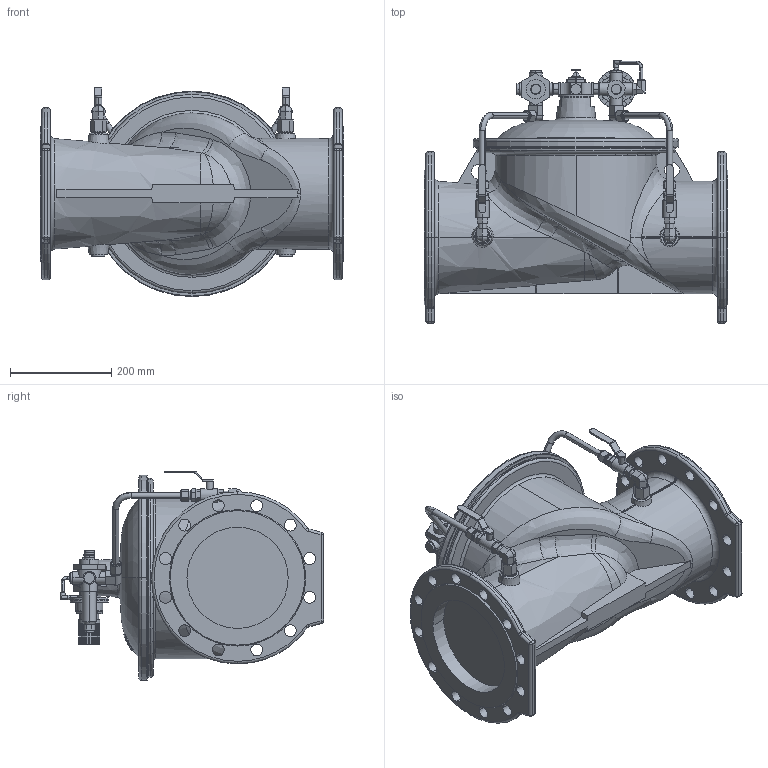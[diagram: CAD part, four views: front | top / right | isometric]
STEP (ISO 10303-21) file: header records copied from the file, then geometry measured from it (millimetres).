
FILE_DESCRIPTION (( 'STEP AP203' ), '1' );
FILE_NAME ('O_859_00_DN200_1XXXX00_REV01.step', '2020-10-15T07:47:38', ( '' ), ( '' ), 'SwSTEP 2.0', 'SolidWorks 2019', '' );
FILE_SCHEMA (( 'CONFIG_CONTROL_DESIGN' ));
Products named in the file (1): O_859_00_DN200_1XXXX00_REV01
Bounding box: 600 x 520 x 413.39 mm (x, y, z)
Volume: 34632929.3 mm3; surface area: 1192664 mm2
Topology: 1 solids, 1 shells, 1125 faces, 2808 edges, 1754 vertices
Faces by surface type: plane 552, cylinder 327, cone 126, torus 82, bspline 30, sphere 8
Entity records: 39710 total; most frequent: CARTESIAN_POINT 12896, DIRECTION 5618, ORIENTED_EDGE 5600, EDGE_CURVE 2800, AXIS2_PLACEMENT_3D 2159, VERTEX_POINT 1754, VECTOR 1300, LINE 1300
